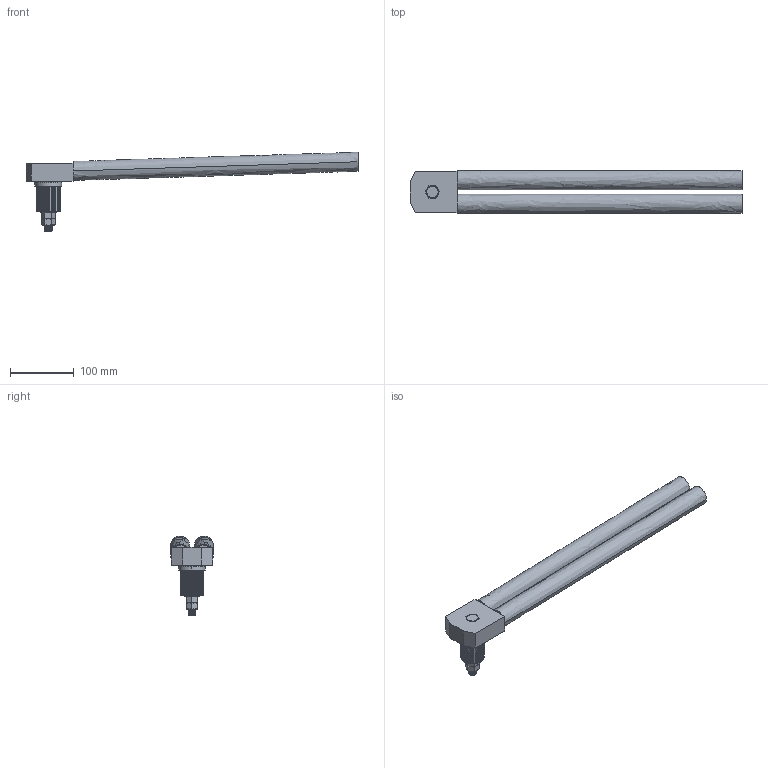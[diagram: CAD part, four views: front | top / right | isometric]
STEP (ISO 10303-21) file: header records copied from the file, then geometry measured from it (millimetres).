
FILE_DESCRIPTION(/* description */ (''),/* implementation_level */ '2;1');
FILE_NAME(/* name */ 'CADBOA~1',/* time_stamp */ '2020-11-06T11:26:45+01:00',/* author */ (''),/* organization */ (''),/* preprocessor_version */ 'ST-DEVELOPER v16.5',/* originating_system */ '',/* authorisation */ '');
FILE_SCHEMA (('AUTOMOTIVE_DESIGN'));
Length unit declared in the file: millimetre
Products named in the file (1): Document
Bounding box: 519.21 x 67.03 x 124.59 mm (x, y, z)
Volume: 645255.9 mm3; surface area: 278963.7 mm2
Topology: 27 solids, 78 shells, 486 faces, 1256 edges, 783 vertices
Faces by surface type: bspline 383, plane 103
Entity records: 27723 total; most frequent: CARTESIAN_POINT 20398, ORIENTED_EDGE 2208, EDGE_CURVE 1211, VERTEX_POINT 796, EDGE_LOOP 528, ADVANCED_FACE 486, FACE_OUTER_BOUND 486, B_SPLINE_CURVE_WITH_KNOTS 415
